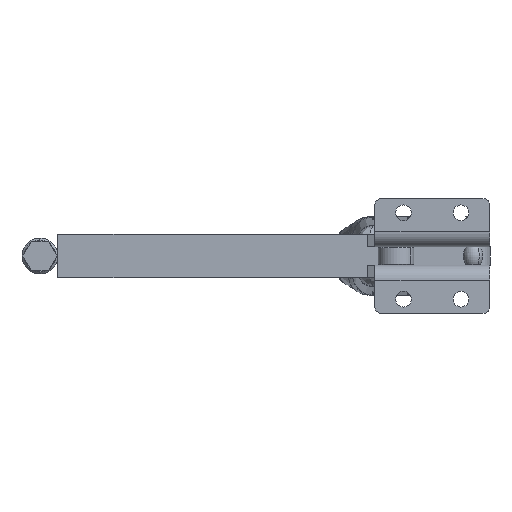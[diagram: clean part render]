
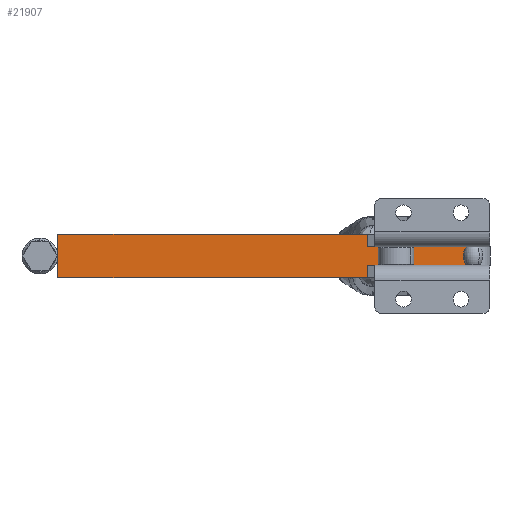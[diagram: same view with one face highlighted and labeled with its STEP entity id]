
A CAD part, front view. The second image highlights one B-rep face of the part: STEP entity #21907.
In plain terms, the highlighted planar face has unit normal (0, -1, 0).
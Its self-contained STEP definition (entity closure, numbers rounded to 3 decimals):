
#143 = EDGE_CURVE ( 'NONE', #9201, #16636, #4857, .T. ) ;
#357 = DIRECTION ( 'NONE',  ( 1., 0., 0. ) ) ;
#653 = DIRECTION ( 'NONE',  ( 1., 0., 0. ) ) ;
#1171 = LINE ( 'NONE', #16643, #20005 ) ;
#1544 = ORIENTED_EDGE ( 'NONE', *, *, #18143, .F. ) ;
#1824 = CARTESIAN_POINT ( 'NONE',  ( -191., -9.525, 0. ) ) ;
#2062 = CARTESIAN_POINT ( 'NONE',  ( -191., -9.525, -19.05 ) ) ;
#2973 = CARTESIAN_POINT ( 'NONE',  ( -54.19, -9.525, 0. ) ) ;
#3092 = DIRECTION ( 'NONE',  ( 1., 0., 0. ) ) ;
#3356 = LINE ( 'NONE', #9750, #22181 ) ;
#4233 = CARTESIAN_POINT ( 'NONE',  ( -54.19, -9.525, -13.525 ) ) ;
#4753 = EDGE_CURVE ( 'NONE', #19049, #16123, #3356, .T. ) ;
#4857 = LINE ( 'NONE', #22186, #18841 ) ;
#5131 = VERTEX_POINT ( 'NONE', #18264 ) ;
#5375 = LINE ( 'NONE', #4233, #23664 ) ;
#6968 = CARTESIAN_POINT ( 'NONE',  ( -54.19, -9.525, -19.05 ) ) ;
#8539 = CARTESIAN_POINT ( 'NONE',  ( -9.525, -9.525, 0. ) ) ;
#8669 = ORIENTED_EDGE ( 'NONE', *, *, #15114, .F. ) ;
#8671 = ORIENTED_EDGE ( 'NONE', *, *, #143, .T. ) ;
#8789 = ORIENTED_EDGE ( 'NONE', *, *, #12079, .F. ) ;
#8922 = CARTESIAN_POINT ( 'NONE',  ( -9.525, -9.525, -5.525 ) ) ;
#8928 = CARTESIAN_POINT ( 'NONE',  ( -191., -9.525, -19.05 ) ) ;
#9018 = EDGE_CURVE ( 'NONE', #19049, #20068, #19534, .T. ) ;
#9201 = VERTEX_POINT ( 'NONE', #19044 ) ;
#9408 = DIRECTION ( 'NONE',  ( 0., 0., 1. ) ) ;
#9694 = VERTEX_POINT ( 'NONE', #11544 ) ;
#9750 = CARTESIAN_POINT ( 'NONE',  ( -9.525, -9.525, -19.05 ) ) ;
#9879 = LINE ( 'NONE', #20248, #19000 ) ;
#10318 = DIRECTION ( 'NONE',  ( 0., 0., -1. ) ) ;
#11544 = CARTESIAN_POINT ( 'NONE',  ( -54.19, -9.525, -5.525 ) ) ;
#12079 = EDGE_CURVE ( 'NONE', #20068, #17426, #23159, .T. ) ;
#13205 = EDGE_LOOP ( 'NONE', ( #19464, #16883, #8671, #1544, #8669, #8789, #21621, #18454 ) ) ;
#13452 = VECTOR ( 'NONE', #13974, 1000. ) ;
#13974 = DIRECTION ( 'NONE',  ( 1., 0., 0. ) ) ;
#14025 = DIRECTION ( 'NONE',  ( 0., -1., 0. ) ) ;
#14686 = VECTOR ( 'NONE', #22177, 1000. ) ;
#14925 = VECTOR ( 'NONE', #10318, 1000. ) ;
#15054 = FACE_OUTER_BOUND ( 'NONE', #13205, .T. ) ;
#15114 = EDGE_CURVE ( 'NONE', #17426, #9694, #15521, .T. ) ;
#15170 = DIRECTION ( 'NONE',  ( 1., 0., 0. ) ) ;
#15521 = LINE ( 'NONE', #2973, #14925 ) ;
#15786 = PLANE ( 'NONE',  #17141 ) ;
#16123 = VERTEX_POINT ( 'NONE', #6968 ) ;
#16636 = VERTEX_POINT ( 'NONE', #8922 ) ;
#16643 = CARTESIAN_POINT ( 'NONE',  ( -54.19, -9.525, -5.525 ) ) ;
#16883 = ORIENTED_EDGE ( 'NONE', *, *, #21189, .T. ) ;
#17141 = AXIS2_PLACEMENT_3D ( 'NONE', #21279, #14025, #3092 ) ;
#17426 = VERTEX_POINT ( 'NONE', #19159 ) ;
#18143 = EDGE_CURVE ( 'NONE', #9694, #16636, #1171, .T. ) ;
#18264 = CARTESIAN_POINT ( 'NONE',  ( -54.19, -9.525, -13.525 ) ) ;
#18423 = DIRECTION ( 'NONE',  ( 0., 0., 1. ) ) ;
#18454 = ORIENTED_EDGE ( 'NONE', *, *, #4753, .T. ) ;
#18841 = VECTOR ( 'NONE', #9408, 1000. ) ;
#19000 = VECTOR ( 'NONE', #18423, 1000. ) ;
#19044 = CARTESIAN_POINT ( 'NONE',  ( -9.525, -9.525, -13.525 ) ) ;
#19049 = VERTEX_POINT ( 'NONE', #8928 ) ;
#19159 = CARTESIAN_POINT ( 'NONE',  ( -54.19, -9.525, 0. ) ) ;
#19464 = ORIENTED_EDGE ( 'NONE', *, *, #23023, .T. ) ;
#19534 = LINE ( 'NONE', #2062, #14686 ) ;
#20005 = VECTOR ( 'NONE', #357, 1000. ) ;
#20068 = VERTEX_POINT ( 'NONE', #1824 ) ;
#20248 = CARTESIAN_POINT ( 'NONE',  ( -54.19, -9.525, -19.05 ) ) ;
#21189 = EDGE_CURVE ( 'NONE', #5131, #9201, #5375, .T. ) ;
#21279 = CARTESIAN_POINT ( 'NONE',  ( -9.525, -9.525, -19.05 ) ) ;
#21621 = ORIENTED_EDGE ( 'NONE', *, *, #9018, .F. ) ;
#21907 = ADVANCED_FACE ( 'NONE', ( #15054 ), #15786, .T. ) ;
#22177 = DIRECTION ( 'NONE',  ( 0., 0., 1. ) ) ;
#22181 = VECTOR ( 'NONE', #653, 1000. ) ;
#22186 = CARTESIAN_POINT ( 'NONE',  ( -9.525, -9.525, -19.05 ) ) ;
#23023 = EDGE_CURVE ( 'NONE', #16123, #5131, #9879, .T. ) ;
#23159 = LINE ( 'NONE', #8539, #13452 ) ;
#23664 = VECTOR ( 'NONE', #15170, 1000. ) ;
